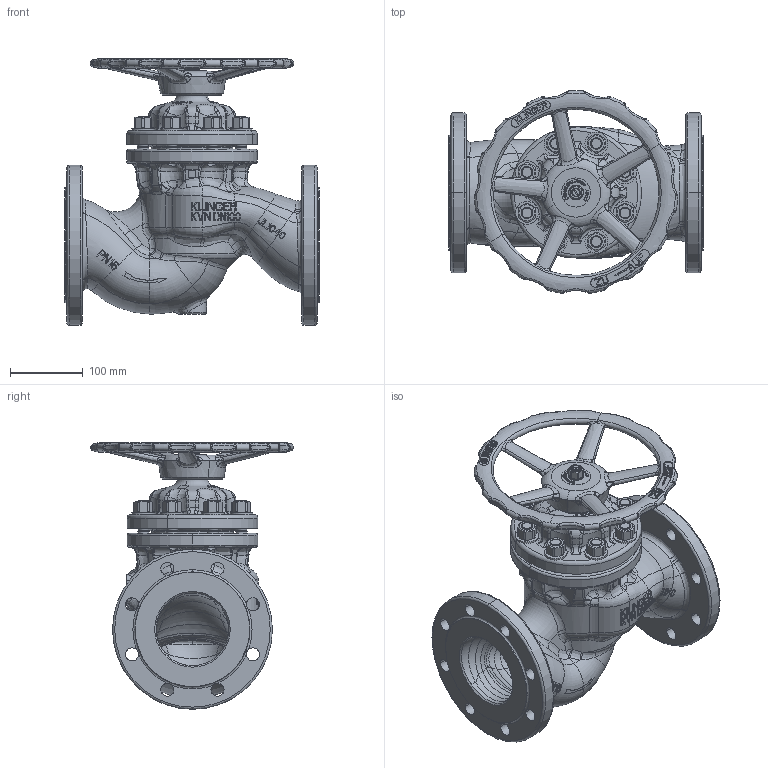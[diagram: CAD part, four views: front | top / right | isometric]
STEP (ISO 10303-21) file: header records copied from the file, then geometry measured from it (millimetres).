
FILE_DESCRIPTION((''),'2;1');
FILE_NAME('KVNFL100S-----P016DGG_SW0001','2015-07-08T',('jeitlers'),('RAND'),'PRO/ENGINEER BY PARAMETRIC TECHNOLOGY CORPORATION, 2013410','PRO/ENGINEER BY PARAMETRIC TECHNOLOGY CORPORATION, 2013410','');
FILE_SCHEMA(('CONFIG_CONTROL_DESIGN'));
Products named in the file (1): KVNFL100S-----P016DGG_SW0001
Bounding box: 350 x 278.6 x 366.8 mm (x, y, z)
Volume: 5362655.2 mm3; surface area: 829521.7 mm2
Topology: 2 solids, 7 shells, 3568 faces, 9263 edges, 5794 vertices
Faces by surface type: plane 1768, bspline 987, cylinder 389, cone 207, torus 207, extrusion 6, sphere 4
Entity records: 345128 total; most frequent: CARTESIAN_POINT 267773, ORIENTED_EDGE 18516, DIRECTION 12467, EDGE_CURVE 9258, VERTEX_POINT 5793, AXIS2_PLACEMENT_3D 4413, B_SPLINE_CURVE_WITH_KNOTS 3786, EDGE_LOOP 3727
